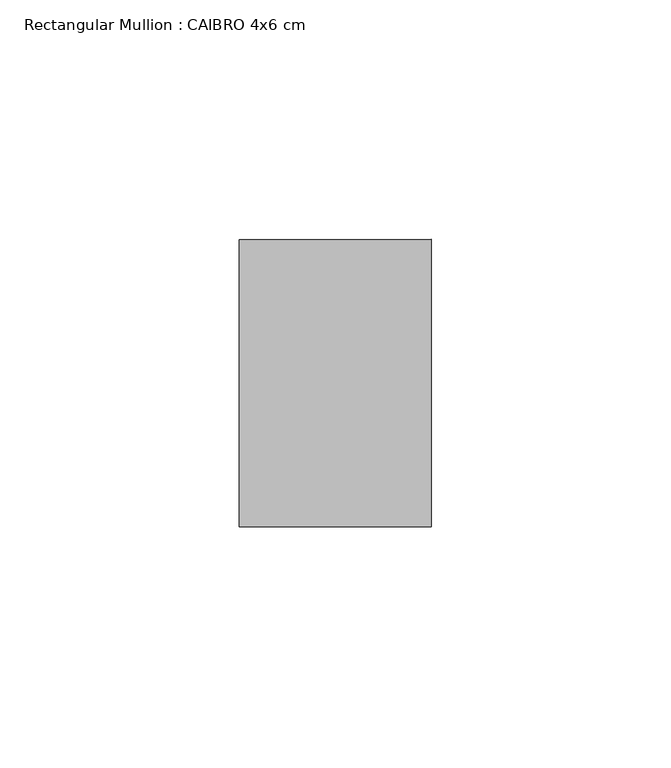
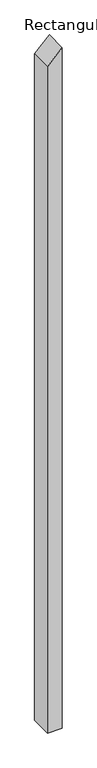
"""IFC4 building model written with IfcOpenShell, lengths in millimetres: member geometry, Rectangular Mullion : CAIBRO 4x6 cm."""

from ifc_helpers import new_model, si_unit, frame, origin, place, context, project, spatial, polyline, outline, extrude, source, transform, mapped, element, save


def rectangular_mullion_caibro_4x6_cm_cb7c813f(model_context):
    return source(origin(), model_context, "Body", "SweptSolid", [
        extrude(outline(polyline([(-36.6621022, 20.0), (-77.109599, -20.0), (-1993.5796646, -20.0), (-1993.5796646, 20.0), (-36.6621022, 20.0)])), frame((0.0, 0.0, 0.0), z_axis=(0.0, 1.0, 0.0), x_axis=(0.0, 0.0, 1.0)), (0.0, 0.0, 1.0), 60.0),
    ])


if __name__ == "__main__":
    model = new_model("IFC4")
    model_context = context("Model", 3, world=origin())
    ifc_project = project(units=[si_unit("LENGTHUNIT", "METRE", prefix="MILLI")], contexts=[model_context])
    site = spatial("IfcSite", under=ifc_project)
    building = spatial("IfcBuilding", under=site)
    placement = place(None, origin())
    rectangular_mullion_caibro_4x6_cm_shape = rectangular_mullion_caibro_4x6_cm_cb7c813f(model_context)
    element("IfcMember", 1, ObjectType="Rectangular Mullion : CAIBRO 4x6 cm", at=placement, inside=building, context=model_context, shape_type="MappedRepresentation", body=[
        mapped(rectangular_mullion_caibro_4x6_cm_shape, transform((0.0, 0.0, 0.0), x_axis=(1.0, 0.0, 0.0), y_axis=(0.0, 1.0, 0.0), z_axis=(0.0, 0.0, 1.0))),
    ])
    save(model, "model.ifc")
